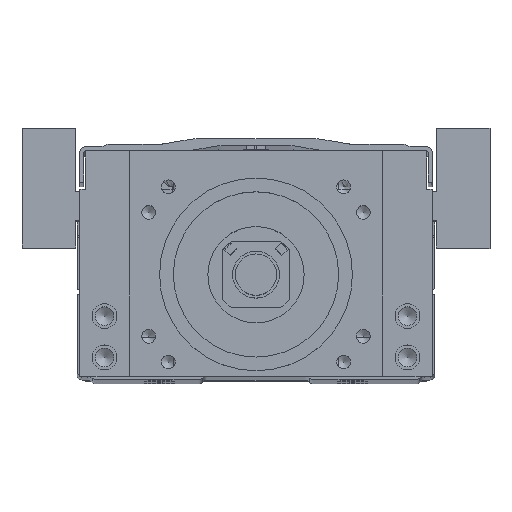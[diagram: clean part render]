
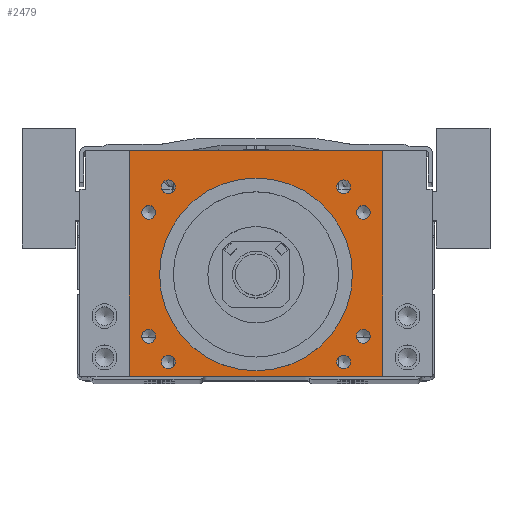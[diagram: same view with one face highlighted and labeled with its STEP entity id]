
A CAD part, top view. The second image highlights one B-rep face of the part: STEP entity #2479.
In plain terms, the highlighted planar face has unit normal (0, 0, 1).
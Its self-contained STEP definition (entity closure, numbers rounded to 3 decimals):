
#2479=ADVANCED_FACE('',(#4036,#4037,#4038,#4039,#4040,#4041,#4042,#4043,
#4044,#4045),#3405,.T.);
#3405=PLANE('',#18485);
#4036=FACE_BOUND('',#5031,.T.);
#4037=FACE_BOUND('',#5032,.T.);
#4038=FACE_BOUND('',#5033,.T.);
#4039=FACE_BOUND('',#5034,.T.);
#4040=FACE_BOUND('',#5035,.T.);
#4041=FACE_BOUND('',#5036,.T.);
#4042=FACE_BOUND('',#5037,.T.);
#4043=FACE_BOUND('',#5038,.T.);
#4044=FACE_BOUND('',#5039,.T.);
#4045=FACE_BOUND('',#5040,.T.);
#5031=EDGE_LOOP('',(#7954,#7955,#7956,#7957));
#5032=EDGE_LOOP('',(#7958));
#5033=EDGE_LOOP('',(#7959));
#5034=EDGE_LOOP('',(#7960));
#5035=EDGE_LOOP('',(#7961));
#5036=EDGE_LOOP('',(#7962));
#5037=EDGE_LOOP('',(#7963));
#5038=EDGE_LOOP('',(#7964));
#5039=EDGE_LOOP('',(#7965));
#5040=EDGE_LOOP('',(#7966));
#6306=CIRCLE('',#18475,35.015);
#6307=CIRCLE('',#18477,2.5);
#6308=CIRCLE('',#18478,2.5);
#6309=CIRCLE('',#18479,2.5);
#6310=CIRCLE('',#18480,2.5);
#6311=CIRCLE('',#18481,2.5);
#6312=CIRCLE('',#18482,2.5);
#6313=CIRCLE('',#18483,2.5);
#6314=CIRCLE('',#18484,2.5);
#7954=ORIENTED_EDGE('',*,*,#13600,.T.);
#7955=ORIENTED_EDGE('',*,*,#13001,.T.);
#7956=ORIENTED_EDGE('',*,*,#13595,.T.);
#7957=ORIENTED_EDGE('',*,*,#13605,.T.);
#7958=ORIENTED_EDGE('',*,*,#13613,.F.);
#7959=ORIENTED_EDGE('',*,*,#13614,.T.);
#7960=ORIENTED_EDGE('',*,*,#13615,.T.);
#7961=ORIENTED_EDGE('',*,*,#13616,.F.);
#7962=ORIENTED_EDGE('',*,*,#13612,.F.);
#7963=ORIENTED_EDGE('',*,*,#13617,.T.);
#7964=ORIENTED_EDGE('',*,*,#13618,.T.);
#7965=ORIENTED_EDGE('',*,*,#13619,.T.);
#7966=ORIENTED_EDGE('',*,*,#13620,.T.);
#11345=VERTEX_POINT('',#24490);
#11346=VERTEX_POINT('',#24492);
#11780=VERTEX_POINT('',#25900);
#11782=VERTEX_POINT('',#25911);
#11788=VERTEX_POINT('',#25935);
#11789=VERTEX_POINT('',#25938);
#11790=VERTEX_POINT('',#25940);
#11791=VERTEX_POINT('',#25942);
#11792=VERTEX_POINT('',#25944);
#11793=VERTEX_POINT('',#25946);
#11794=VERTEX_POINT('',#25948);
#11795=VERTEX_POINT('',#25950);
#11796=VERTEX_POINT('',#25952);
#13001=EDGE_CURVE('',#11346,#11345,#15254,.T.);
#13595=EDGE_CURVE('',#11345,#11780,#15652,.T.);
#13600=EDGE_CURVE('',#11782,#11346,#15657,.T.);
#13605=EDGE_CURVE('',#11780,#11782,#15662,.T.);
#13612=EDGE_CURVE('',#11788,#11788,#6306,.T.);
#13613=EDGE_CURVE('',#11789,#11789,#6307,.T.);
#13614=EDGE_CURVE('',#11790,#11790,#6308,.T.);
#13615=EDGE_CURVE('',#11791,#11791,#6309,.T.);
#13616=EDGE_CURVE('',#11792,#11792,#6310,.T.);
#13617=EDGE_CURVE('',#11793,#11793,#6311,.T.);
#13618=EDGE_CURVE('',#11794,#11794,#6312,.T.);
#13619=EDGE_CURVE('',#11795,#11795,#6313,.T.);
#13620=EDGE_CURVE('',#11796,#11796,#6314,.T.);
#15254=LINE('',#24491,#16663);
#15652=LINE('',#25902,#17061);
#15657=LINE('',#25910,#17066);
#15662=LINE('',#25919,#17071);
#16663=VECTOR('',#19758,1.);
#17061=VECTOR('',#20910,1.);
#17066=VECTOR('',#20921,1.);
#17071=VECTOR('',#20928,1.);
#18475=AXIS2_PLACEMENT_3D('',#25934,#20947,#20948);
#18477=AXIS2_PLACEMENT_3D('',#25937,#20951,#20952);
#18478=AXIS2_PLACEMENT_3D('',#25939,#20953,#20954);
#18479=AXIS2_PLACEMENT_3D('',#25941,#20955,#20956);
#18480=AXIS2_PLACEMENT_3D('',#25943,#20957,#20958);
#18481=AXIS2_PLACEMENT_3D('',#25945,#20959,#20960);
#18482=AXIS2_PLACEMENT_3D('',#25947,#20961,#20962);
#18483=AXIS2_PLACEMENT_3D('',#25949,#20963,#20964);
#18484=AXIS2_PLACEMENT_3D('',#25951,#20965,#20966);
#18485=AXIS2_PLACEMENT_3D('',#25953,#20967,#20968);
#19758=DIRECTION('',(-1.,0.,0.));
#20910=DIRECTION('',(0.,-1.,0.));
#20921=DIRECTION('',(0.,1.,0.));
#20928=DIRECTION('',(1.,0.,0.));
#20947=DIRECTION('',(0.,0.,1.));
#20948=DIRECTION('',(1.,0.,0.));
#20951=DIRECTION('',(0.,0.,1.));
#20952=DIRECTION('',(-1.,0.,0.));
#20953=DIRECTION('',(0.,0.,-1.));
#20954=DIRECTION('',(1.,0.,0.));
#20955=DIRECTION('',(0.,0.,-1.));
#20956=DIRECTION('',(1.,0.,0.));
#20957=DIRECTION('',(0.,0.,1.));
#20958=DIRECTION('',(-1.,0.,0.));
#20959=DIRECTION('',(0.,0.,-1.));
#20960=DIRECTION('',(1.,0.,0.));
#20961=DIRECTION('',(0.,0.,-1.));
#20962=DIRECTION('',(1.,0.,0.));
#20963=DIRECTION('',(0.,0.,-1.));
#20964=DIRECTION('',(1.,0.,0.));
#20965=DIRECTION('',(0.,0.,-1.));
#20966=DIRECTION('',(1.,0.,0.));
#20967=DIRECTION('',(0.,0.,1.));
#20968=DIRECTION('',(-1.,0.,0.));
#24490=CARTESIAN_POINT('',(-46.,83.,100.));
#24491=CARTESIAN_POINT('',(0.,83.,100.));
#24492=CARTESIAN_POINT('',(46.,83.,100.));
#25900=CARTESIAN_POINT('',(-46.,1.,100.));
#25902=CARTESIAN_POINT('',(-46.,38.,100.));
#25910=CARTESIAN_POINT('',(46.,38.,100.));
#25911=CARTESIAN_POINT('',(46.,1.,100.));
#25919=CARTESIAN_POINT('',(0.,1.,100.));
#25934=CARTESIAN_POINT('',(0.,38.,100.));
#25935=CARTESIAN_POINT('',(35.015,38.,100.));
#25937=CARTESIAN_POINT('',(-38.971,15.5,100.));
#25938=CARTESIAN_POINT('',(-41.471,15.5,100.));
#25939=CARTESIAN_POINT('',(38.971,60.5,100.));
#25940=CARTESIAN_POINT('',(41.471,60.5,100.));
#25941=CARTESIAN_POINT('',(38.971,15.5,100.));
#25942=CARTESIAN_POINT('',(41.471,15.5,100.));
#25943=CARTESIAN_POINT('',(-38.971,60.5,100.));
#25944=CARTESIAN_POINT('',(-41.471,60.5,100.));
#25945=CARTESIAN_POINT('',(-31.82,69.82,100.));
#25946=CARTESIAN_POINT('',(-29.32,69.82,100.));
#25947=CARTESIAN_POINT('',(-31.82,6.18,100.));
#25948=CARTESIAN_POINT('',(-29.32,6.18,100.));
#25949=CARTESIAN_POINT('',(31.82,6.18,100.));
#25950=CARTESIAN_POINT('',(34.32,6.18,100.));
#25951=CARTESIAN_POINT('',(31.82,69.82,100.));
#25952=CARTESIAN_POINT('',(34.32,69.82,100.));
#25953=CARTESIAN_POINT('',(0.,38.,100.));
